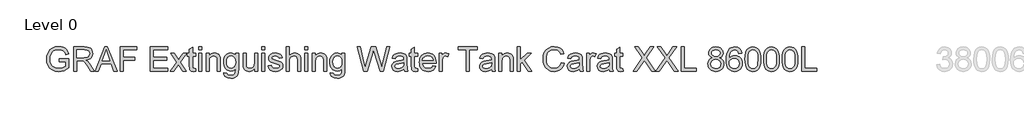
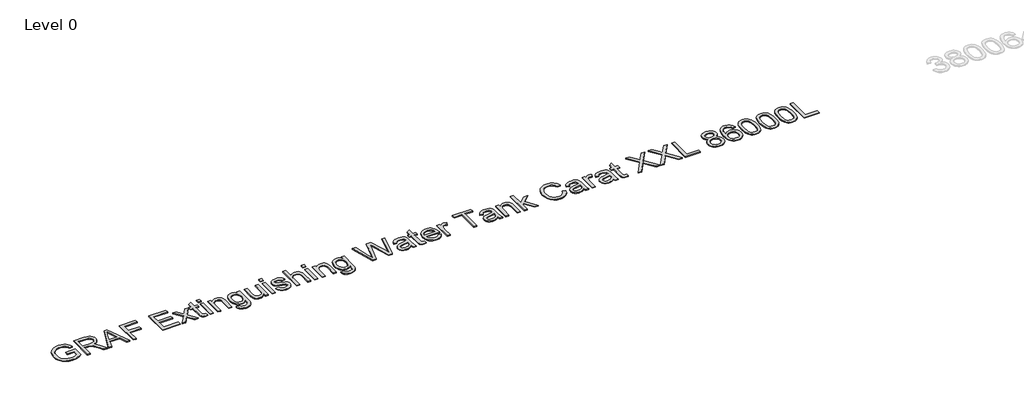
# One storey, part 29 of 37: 1 proxy.
"""IFC4 building model written with IfcOpenShell, lengths in millimetres."""

from ifc_helpers import new_model, si_unit, origin, origin_with_axes, place, context, project, spatial, polyline, outline, extrude, element, save

model = new_model("IFC4")

# Units and contexts
model_context = context("Model", 3, world=origin())
ifc_project = project(units=[si_unit("LENGTHUNIT", "METRE", prefix="MILLI")], contexts=[model_context])

# Site, building, storey
site = spatial("IfcSite", under=ifc_project)
building = spatial("IfcBuilding", under=site)
storey = spatial("IfcBuildingStorey", under=building, Name="Level 0", Elevation=0.0)

# Proxy
placement = place(None, origin())
element("IfcBuildingElementProxy", 1, Name="300mm Arial", ObjectType="300mm Arial", at=placement, inside=storey, context=model_context, shape_type="SweptSolid", body=[
    extrude(outline(polyline([(16759.0059613, -13583.2545597), (16759.0059613, -13545.5834434), (16881.4370893, -13545.5834434), (16881.4370893, -13658.2289103), (16851.6846329, -13678.9222726), (16820.9940775, -13693.7663111), (16789.4389993, -13702.7058436), (16757.0929749, -13705.6856877), (16714.8325307, -13700.949207), (16676.6371825, -13686.739765), (16644.9073605, -13663.5540022), (16622.0434945, -13631.8885595), (16608.2203285, -13593.9047435), (16603.6126065, -13551.7638609), (16608.2019344, -13509.3194757), (16621.9699181, -13469.8365406), (16644.3463404, -13436.717964), (16674.7609844, -13413.3666543), (16711.8067013, -13399.5158972), (16754.0763425, -13394.8989782), (16785.1071888, -13397.5753197), (16813.0110382, -13405.6043443), (16836.5095006, -13418.4066377), (16854.3241862, -13435.4027859), (16867.5035587, -13457.4113262), (16877.0960817, -13485.2507962), (16842.3680214, -13495.0364573), (16834.6149083, -13475.1800266), (16825.1879322, -13460.1980323), (16812.7167326, -13448.9040551), (16795.830949, -13440.1116754), (16775.6986068, -13434.4554897), (16753.4877313, -13432.5700945), (16727.4876713, -13434.6026425), (16705.2584018, -13440.7002866), (16686.8826961, -13450.0996716), (16672.4433278, -13462.0374423), (16653.0559467, -13491.0633317), (16644.2267788, -13519.50061), (16641.2837228, -13550.2187566), (16644.824587, -13586.2436009), (16655.4471796, -13615.8856927), (16672.8296039, -13638.9334997), (16696.6499631, -13655.1754898), (16724.5262213, -13664.804801), (16754.0763425, -13668.0145714), (16780.168373, -13665.5957473), (16805.6166101, -13658.3392749), (16827.7171209, -13648.3420817), (16843.765973, -13637.701095), (16843.765973, -13583.2545597), (16759.0059613, -13583.2545597)])), origin_with_axes(), (0.0, 0.0, 1.0), 10.0),
    extrude(outline(polyline([(16942.6526533, -13700.9767982), (16942.6526533, -13399.6078677), (17072.5149976, -13399.6078677), (17107.4178018, -13401.6404158), (17132.8108566, -13407.7380598), (17151.3705032, -13418.9952489), (17165.7730833, -13436.5064318), (17175.0161185, -13458.2206666), (17178.0971302, -13482.087011), (17172.9927675, -13511.7750881), (17157.6796794, -13536.3863935), (17146.0799003, -13546.4157764), (17131.6980135, -13554.4310054), (17094.5879173, -13564.4190016), (17115.9986494, -13580.532233), (17146.532855, -13619.3069952), (17196.7855355, -13700.9767982), (17153.0075781, -13700.9767982), (17113.7913574, -13638.5104354), (17085.4644438, -13597.1604991), (17065.5620278, -13577.6259652), (17047.6461747, -13570.4522663), (17025.7939842, -13569.1278911), (16980.3237696, -13569.1278911), (16980.3237696, -13700.9767982), (16942.6526533, -13700.9767982)]), holes=[polyline([(16980.3237696, -13531.4567748), (17064.6423229, -13531.4567748), (17088.8581552, -13530.1232026), (17107.6477281, -13526.1224859), (17121.7927908, -13519.1879103), (17132.0750926, -13509.0527613), (17138.3382835, -13496.7930938), (17140.4260139, -13483.4849626), (17136.4436913, -13465.109257), (17124.4967235, -13450.3020067), (17103.941317, -13440.5347397), (17074.1336783, -13437.278984), (16980.3237696, -13437.278984), (16980.3237696, -13531.4567748)])]), origin_with_axes(), (0.0, 0.0, 1.0), 10.0),
    extrude(outline(polyline([(17208.9256414, -13700.9767982), (17329.2230538, -13399.6078677), (17361.3023638, -13399.6078677), (17481.5997762, -13700.9767982), (17441.7949443, -13700.9767982), (17407.2876132, -13606.7990074), (17283.164228, -13606.7990074), (17248.7304732, -13700.9767982), (17208.9256414, -13700.9767982)]), holes=[polyline([(17296.996591, -13569.1278911), (17393.5288265, -13569.1278911), (17366.3791353, -13495.0364573), (17345.2627088, -13437.278984), (17326.500727, -13488.5617342), (17296.996591, -13569.1278911)])]), origin_with_axes(), (0.0, 0.0, 1.0), 10.0),
    extrude(outline(polyline([(17521.8460665, -13700.9767982), (17521.8460665, -13399.6078677), (17724.3283166, -13399.6078677), (17724.3283166, -13437.278984), (17559.5171828, -13437.278984), (17559.5171828, -13526.7478853), (17700.7838689, -13526.7478853), (17700.7838689, -13564.4190016), (17559.5171828, -13564.4190016), (17559.5171828, -13700.9767982), (17521.8460665, -13700.9767982)])), origin_with_axes(), (0.0, 0.0, 1.0), 10.0),
    extrude(outline(polyline([(17893.84834, -13700.9767982), (17893.84834, -13399.6078677), (18110.4572587, -13399.6078677), (18110.4572587, -13437.278984), (17931.5194563, -13437.278984), (17931.5194563, -13526.7478853), (18101.0394797, -13526.7478853), (18101.0394797, -13564.4190016), (17931.5194563, -13564.4190016), (17931.5194563, -13663.3056819), (18115.1661483, -13663.3056819), (18115.1661483, -13700.9767982), (17893.84834, -13700.9767982)])), origin_with_axes(), (0.0, 0.0, 1.0), 10.0),
    extrude(outline(polyline([(18143.4194855, -13700.9767982), (18223.9120661, -13589.7292828), (18148.1283751, -13479.6589899), (18193.4514369, -13479.6589899), (18230.0189072, -13532.6339972), (18247.0886318, -13557.6499729), (18261.877488, -13537.1957339), (18303.5217298, -13479.6589899), (18348.8447916, -13479.6589899), (18269.2351279, -13589.7292828), (18345.9017357, -13700.9767982), (18300.5786739, -13700.9767982), (18254.4462717, -13634.0958515), (18245.9849858, -13621.8821692), (18188.7425473, -13700.9767982), (18143.4194855, -13700.9767982)])), origin_with_axes(), (0.0, 0.0, 1.0), 10.0),
    extrude(outline(polyline([(18458.9150846, -13669.5596758), (18463.6239741, -13702.0804442), (18435.4442133, -13705.6856877), (18417.3628132, -13704.1221892), (18403.8799381, -13699.4316938), (18394.3517944, -13692.2028126), (18388.1345887, -13683.0241568), (18384.7132861, -13667.2604133), (18383.572852, -13640.276269), (18383.572852, -13517.3301062), (18355.3195147, -13517.3301062), (18355.3195147, -13479.6589899), (18383.572852, -13479.6589899), (18383.572852, -13425.8746422), (18421.2439683, -13403.7281461), (18421.2439683, -13479.6589899), (18458.9150846, -13479.6589899), (18458.9150846, -13517.3301062), (18421.2439683, -13517.3301062), (18421.2439683, -13639.172623), (18423.230531, -13658.5967923), (18429.668466, -13665.4761856), (18442.5075476, -13668.0145714), (18458.9150846, -13669.5596758)])), origin_with_axes(), (0.0, 0.0, 1.0), 10.0),
    extrude(outline(polyline([(18496.5862009, -13437.278984), (18496.5862009, -13399.6078677), (18534.2573172, -13399.6078677), (18534.2573172, -13437.278984), (18496.5862009, -13437.278984)])), origin_with_axes(), (0.0, 0.0, 1.0), 10.0),
    extrude(outline(polyline([(18496.5862009, -13700.9767982), (18496.5862009, -13479.6589899), (18534.2573172, -13479.6589899), (18534.2573172, -13700.9767982), (18496.5862009, -13700.9767982)])), origin_with_axes(), (0.0, 0.0, 1.0), 10.0),
    extrude(outline(polyline([(18590.7639916, -13700.9767982), (18590.7639916, -13479.6589899), (18628.435108, -13479.6589899), (18628.435108, -13510.5610775), (18641.5225099, -13494.981275), (18657.2402682, -13483.8528446), (18675.5883827, -13477.1757864), (18696.5668535, -13474.9501003), (18715.1356972, -13476.7435251), (18732.1410424, -13482.1237992), (18746.3228933, -13490.4195382), (18756.4212541, -13500.9593574), (18767.7152313, -13528.6608716), (18769.7017941, -13565.0811892), (18769.7017941, -13700.9767982), (18732.0306778, -13700.9767982), (18732.0306778, -13570.1579607), (18727.6896703, -13536.8278519), (18721.6839967, -13526.9042351), (18712.3489911, -13519.2063044), (18700.3836292, -13514.2674886), (18686.4868868, -13512.6212166), (18664.4231641, -13516.3184307), (18645.6151971, -13527.4100729), (18638.0989081, -13536.4645685), (18632.7301302, -13548.8391991), (18628.435108, -13583.5488653), (18628.435108, -13700.9767982), (18590.7639916, -13700.9767982)])), origin_with_axes(), (0.0, 0.0, 1.0), 10.0),
    extrude(outline(polyline([(18812.0817999, -13719.8123563), (18849.7529163, -13724.5212459), (18853.9099828, -13736.2934697), (18861.9665985, -13744.3868736), (18877.8039184, -13750.6776557), (18898.5340688, -13752.7745831), (18920.6437767, -13750.4017442), (18937.0881019, -13743.2832276), (18948.4924438, -13731.8788858), (18955.4822017, -13716.6485712), (18958.0573756, -13672.7234609), (18945.5217966, -13685.084296), (18931.5330838, -13693.9134639), (18916.091237, -13699.2109646), (18899.1962564, -13700.9767982), (18878.5419816, -13698.9212575), (18860.3571148, -13692.7546356), (18844.6416558, -13682.4769323), (18831.3956047, -13668.0881478), (18820.8856759, -13650.8252852), (18813.378584, -13631.9253477), (18808.8743288, -13611.3883353), (18807.3729104, -13589.214248), (18810.067646, -13558.7996041), (18818.1518529, -13530.8313754), (18831.3404224, -13507.1305779), (18849.3482461, -13489.5182274), (18871.5591215, -13478.5921321), (18897.3568464, -13474.9501003), (18914.9737955, -13477.0102395), (18930.9628667, -13483.190657), (18945.3240601, -13493.4913529), (18958.0573756, -13507.9123271), (18958.0573756, -13479.6589899), (18995.7284919, -13479.6589899), (18995.7284919, -13670.7368982), (18993.153318, -13714.8551464), (18985.4277961, -13743.908627), (18972.1196649, -13763.1764465), (18952.7966631, -13777.9377116), (18927.881855, -13787.3187024), (18897.7983048, -13790.4456994), (18862.7483477, -13786.0403125), (18835.148001, -13772.8241518), (18824.7530354, -13762.9028343), (18817.44368, -13750.7604292), (18813.2199349, -13736.3969365), (18812.0817999, -13719.8123563)]), holes=[polyline([(18845.0440267, -13586.6390741), (18849.0631375, -13621.1923905), (18861.1204699, -13644.9483703), (18879.2478552, -13658.716354), (18901.4771248, -13663.3056819), (18923.5408474, -13658.7439451), (18941.7602032, -13645.0587349), (18953.9830825, -13621.6062577), (18958.0573756, -13587.7427201), (18953.8635209, -13555.0839959), (18941.2819567, -13531.5671394), (18922.7958864, -13517.3576973), (18900.8885136, -13512.6212166), (18879.3766139, -13517.2841209), (18861.3411991, -13531.2728338), (18849.1183198, -13554.4402024), (18845.0440267, -13586.6390741)])]), origin_with_axes(), (0.0, 0.0, 1.0), 10.0),
    extrude(outline(polyline([(19193.5018525, -13700.9767982), (19193.5018525, -13662.9377999), (19179.8718246, -13681.6400008), (19163.9977165, -13694.9987158), (19145.8795283, -13703.0139447), (19125.5172598, -13705.6856877), (19107.1691453, -13703.8094895), (19090.0902237, -13698.180895), (19075.76122, -13689.7196091), (19065.6628592, -13679.3453369), (19054.4424584, -13651.6070344), (19052.2351664, -13616.5846685), (19052.2351664, -13479.6589899), (19089.9062827, -13479.6589899), (19089.9062827, -13598.8527563), (19092.1871511, -13637.2596366), (19097.6777899, -13650.0711271), (19107.0863719, -13659.8108029), (19119.7874978, -13665.9636293), (19135.1557681, -13668.0145714), (19151.4069552, -13665.917644), (19166.6096787, -13659.6268619), (19179.1452577, -13649.7216392), (19187.3950114, -13636.78139), (19191.9751423, -13619.0586749), (19193.5018525, -13594.8060544), (19193.5018525, -13479.6589899), (19231.1729689, -13479.6589899), (19231.1729689, -13700.9767982), (19193.5018525, -13700.9767982)])), origin_with_axes(), (0.0, 0.0, 1.0), 10.0),
    extrude(outline(polyline([(19282.9707538, -13437.278984), (19282.9707538, -13399.6078677), (19320.6418701, -13399.6078677), (19320.6418701, -13437.278984), (19282.9707538, -13437.278984)])), origin_with_axes(), (0.0, 0.0, 1.0), 10.0),
    extrude(outline(polyline([(19282.9707538, -13700.9767982), (19282.9707538, -13479.6589899), (19320.6418701, -13479.6589899), (19320.6418701, -13700.9767982), (19282.9707538, -13700.9767982)])), origin_with_axes(), (0.0, 0.0, 1.0), 10.0),
    extrude(outline(polyline([(19363.0218759, -13635.0523446), (19400.6929922, -13630.3434551), (19406.6342865, -13646.4566865), (19418.1305988, -13658.3024867), (19435.2555057, -13665.5865502), (19458.0825835, -13668.0145714), (19480.6337498, -13665.7888853), (19496.4894638, -13659.1118271), (19505.8704547, -13649.4365307), (19508.9974516, -13638.2161298), (19505.8520606, -13628.6144097), (19496.4158874, -13621.293558), (19457.6411251, -13610.5514038), (19400.9137214, -13592.1205158), (19386.5571266, -13582.8590866), (19376.1552632, -13570.5994191), (19369.8368899, -13556.1232626), (19367.7307655, -13540.2123663), (19369.4230226, -13525.6166481), (19374.4997942, -13512.1429701), (19382.5012276, -13500.324761), (19392.9674703, -13490.6954497), (19416.9165882, -13479.5486253), (19449.326992, -13474.9501003), (19473.846327, -13476.7987074), (19495.1650886, -13482.3445284), (19512.3083896, -13491.0449376), (19524.3013426, -13502.357309), (19532.2475937, -13517.118574), (19537.2507888, -13536.1656643), (19499.5796725, -13540.8745539), (19494.8247977, -13529.0195566), (19485.4162157, -13520.0892211), (19471.261956, -13514.4882178), (19452.270048, -13512.6212166), (19430.6385866, -13514.4054443), (19416.2176124, -13519.7581274), (19408.1058144, -13527.4836493), (19405.4018818, -13536.3863935), (19409.8900421, -13547.349277), (19423.9431343, -13555.6634101), (19456.3903263, -13563.6832376), (19511.6829902, -13581.4151497), (19526.2879054, -13589.8948297), (19537.3611534, -13601.5015067), (19544.3417143, -13616.2719688), (19546.6685679, -13634.2430043), (19543.9370441, -13652.821045), (19535.7424727, -13670.2954398), (19522.3975533, -13685.2958281), (19504.2149857, -13696.4518496), (19482.2524306, -13703.3772282), (19457.5675487, -13705.6856877), (19419.5837327, -13701.2343156), (19391.8638243, -13687.8801992), (19373.35936, -13665.7704912), (19363.0218759, -13635.0523446)])), origin_with_axes(), (0.0, 0.0, 1.0), 10.0),
    extrude(outline(polyline([(19589.0485738, -13700.9767982), (19589.0485738, -13399.6078677), (19626.7196901, -13399.6078677), (19626.7196901, -13510.4139247), (19640.5566516, -13494.8985015), (19656.0950674, -13483.8160564), (19673.3349374, -13477.1665894), (19692.2762616, -13474.9501003), (19715.029763, -13477.3689245), (19734.5826911, -13484.6253968), (19749.9785526, -13496.1493003), (19760.2608543, -13511.3704179), (19766.0549957, -13532.2845093), (19767.9863762, -13560.8873344), (19767.9863762, -13700.9767982), (19730.3152599, -13700.9767982), (19730.3152599, -13564.7868836), (19727.3170216, -13541.2056477), (19718.3223069, -13525.0556281), (19703.8277563, -13515.7298195), (19684.3300105, -13512.6212166), (19668.4099172, -13514.718144), (19653.4647111, -13521.0089261), (19641.085482, -13530.8865577), (19632.8633194, -13543.7440334), (19628.2555974, -13560.8321521), (19626.7196901, -13583.4017125), (19626.7196901, -13700.9767982), (19589.0485738, -13700.9767982)])), origin_with_axes(), (0.0, 0.0, 1.0), 10.0),
    extrude(outline(polyline([(19819.7841611, -13437.278984), (19819.7841611, -13399.6078677), (19857.4552774, -13399.6078677), (19857.4552774, -13437.278984), (19819.7841611, -13437.278984)])), origin_with_axes(), (0.0, 0.0, 1.0), 10.0),
    extrude(outline(polyline([(19819.7841611, -13700.9767982), (19819.7841611, -13479.6589899), (19857.4552774, -13479.6589899), (19857.4552774, -13700.9767982), (19819.7841611, -13700.9767982)])), origin_with_axes(), (0.0, 0.0, 1.0), 10.0),
    extrude(outline(polyline([(19913.9619519, -13700.9767982), (19913.9619519, -13479.6589899), (19951.6330682, -13479.6589899), (19951.6330682, -13510.5610775), (19964.7204702, -13494.981275), (19980.4382284, -13483.8528446), (19998.7863429, -13477.1757864), (20019.7648137, -13474.9501003), (20038.3336574, -13476.7435251), (20055.3390026, -13482.1237992), (20069.5208536, -13490.4195382), (20079.6192143, -13500.9593574), (20090.9131916, -13528.6608716), (20092.8997544, -13565.0811892), (20092.8997544, -13700.9767982), (20055.228638, -13700.9767982), (20055.228638, -13570.1579607), (20050.8876305, -13536.8278519), (20044.8819569, -13526.9042351), (20035.5469513, -13519.2063044), (20023.5815894, -13514.2674886), (20009.684847, -13512.6212166), (19987.6211244, -13516.3184307), (19968.8131574, -13527.4100729), (19961.2968684, -13536.4645685), (19955.9280905, -13548.8391991), (19951.6330682, -13583.5488653), (19951.6330682, -13700.9767982), (19913.9619519, -13700.9767982)])), origin_with_axes(), (0.0, 0.0, 1.0), 10.0),
    extrude(outline(polyline([(20135.2797602, -13719.8123563), (20172.9508765, -13724.5212459), (20177.1079431, -13736.2934697), (20185.1645587, -13744.3868736), (20201.0018786, -13750.6776557), (20221.7320291, -13752.7745831), (20243.841737, -13750.4017442), (20260.2860622, -13743.2832276), (20271.690404, -13731.8788858), (20278.6801619, -13716.6485712), (20281.2553359, -13672.7234609), (20268.7197569, -13685.084296), (20254.731044, -13693.9134639), (20239.2891973, -13699.2109646), (20222.3942167, -13700.9767982), (20201.7399419, -13698.9212575), (20183.555075, -13692.7546356), (20167.839616, -13682.4769323), (20154.5935649, -13668.0881478), (20144.0836362, -13650.8252852), (20136.5765442, -13631.9253477), (20132.0722891, -13611.3883353), (20130.5708707, -13589.214248), (20133.2656063, -13558.7996041), (20141.3498131, -13530.8313754), (20154.5383826, -13507.1305779), (20172.5462063, -13489.5182274), (20194.7570818, -13478.5921321), (20220.5548067, -13474.9501003), (20238.1717557, -13477.0102395), (20254.1608269, -13483.190657), (20268.5220203, -13493.4913529), (20281.2553359, -13507.9123271), (20281.2553359, -13479.6589899), (20318.9264522, -13479.6589899), (20318.9264522, -13670.7368982), (20316.3512782, -13714.8551464), (20308.6257563, -13743.908627), (20295.3176252, -13763.1764465), (20275.9946234, -13777.9377116), (20251.0798152, -13787.3187024), (20220.9962651, -13790.4456994), (20185.946308, -13786.0403125), (20158.3459613, -13772.8241518), (20147.9509957, -13762.9028343), (20140.6416403, -13750.7604292), (20136.4178951, -13736.3969365), (20135.2797602, -13719.8123563)]), holes=[polyline([(20168.241987, -13586.6390741), (20172.2610978, -13621.1923905), (20184.3184302, -13644.9483703), (20202.4458155, -13658.716354), (20224.675085, -13663.3056819), (20246.7388077, -13658.7439451), (20264.9581635, -13645.0587349), (20277.1810428, -13621.6062577), (20281.2553359, -13587.7427201), (20277.0614811, -13555.0839959), (20264.4799169, -13531.5671394), (20245.9938466, -13517.3576973), (20224.0864738, -13512.6212166), (20202.5745742, -13517.2841209), (20184.5391594, -13531.2728338), (20172.3162801, -13554.4402024), (20168.241987, -13586.6390741)])]), origin_with_axes(), (0.0, 0.0, 1.0), 10.0),
    extrude(outline(polyline([(20551.7957551, -13700.9767982), (20469.6109174, -13399.6078677), (20508.4592561, -13399.6078677), (20556.1367627, -13597.6755339), (20570.8520425, -13658.8175215), (20586.5973919, -13604.7388682), (20646.3414279, -13399.6078677), (20702.3330676, -13399.6078677), (20745.743143, -13548.3057702), (20764.3395779, -13603.4880695), (20778.0431822, -13658.8175215), (20792.3170036, -13599.4413675), (20840.4359686, -13399.6078677), (20879.2843072, -13399.6078677), (20797.0258931, -13700.9767982), (20756.7796029, -13700.9767982), (20684.527579, -13468.4753772), (20674.4476123, -13436.0281853), (20663.1168469, -13475.0972531), (20597.2659697, -13700.9767982), (20551.7957551, -13700.9767982)])), origin_with_axes(), (0.0, 0.0, 1.0), 10.0),
    extrude(outline(polyline([(21053.5132202, -13672.7234609), (21035.5145935, -13688.1561106), (21016.982538, -13698.2544714), (20997.4939893, -13703.8278836), (20976.6258832, -13705.6856877), (20945.1443814, -13701.2159215), (20921.9218305, -13687.8066228), (20907.6020238, -13667.4443543), (20902.8287549, -13642.115679), (20904.6313767, -13626.4990883), (20910.039242, -13612.3172373), (20918.3809663, -13600.1771315), (20928.9851648, -13590.685776), (20955.3623038, -13578.324941), (20987.9566486, -13572.6595583), (21026.4738935, -13566.6998699), (21053.292491, -13559.710112), (21053.5132202, -13551.3224025), (21050.9196521, -13534.5101954), (21043.1389479, -13523.5105237), (21025.7381295, -13515.3435434), (21001.494706, -13512.6212166), (20979.0539043, -13514.4330355), (20963.3821313, -13519.868492), (20952.6951594, -13529.9208675), (20945.2087608, -13545.5834434), (20907.5376445, -13540.8745539), (20914.0767469, -13520.2731621), (20923.8348169, -13504.0863544), (20937.7223622, -13491.7071252), (20956.6498908, -13482.5284694), (20979.7988654, -13476.8446926), (21006.3507484, -13474.9501003), (21031.8173795, -13476.6239634), (21052.004904, -13481.6455527), (21067.2260215, -13489.1963306), (21077.7934318, -13498.4577598), (21084.8015838, -13509.9080869), (21089.3449265, -13524.0255585), (21091.1843365, -13556.9877853), (21091.1843365, -13603.8559515), (21093.0973228, -13669.3021584), (21100.6021155, -13700.9767982), (21062.9309992, -13700.9767982), (21053.5132202, -13672.7234609)]), holes=[polyline([(21053.5132202, -13597.3812283), (20992.7391146, -13608.932723), (20960.3287108, -13615.0395641), (20945.6502192, -13624.972378), (20940.4998712, -13639.4669286), (20943.3049715, -13650.6689353), (20951.7202721, -13659.8475911), (20965.5618322, -13665.9728263), (20984.6457107, -13668.0145714), (21004.8792204, -13665.7612942), (21022.7582854, -13659.0014625), (21037.252836, -13649.0410575), (21047.3328026, -13637.1860602), (21051.8025689, -13624.972378), (21053.292491, -13608.0498062), (21053.5132202, -13597.3812283)])]), origin_with_axes(), (0.0, 0.0, 1.0), 10.0),
    extrude(outline(polyline([(21223.0332435, -13669.5596758), (21227.7421331, -13702.0804442), (21199.5623722, -13705.6856877), (21181.4809722, -13704.1221892), (21167.9980971, -13699.4316938), (21158.4699534, -13692.2028126), (21152.2527477, -13683.0241568), (21148.8314451, -13667.2604133), (21147.6910109, -13640.276269), (21147.6910109, -13517.3301062), (21119.4376737, -13517.3301062), (21119.4376737, -13479.6589899), (21147.6910109, -13479.6589899), (21147.6910109, -13425.8746422), (21185.3621272, -13403.7281461), (21185.3621272, -13479.6589899), (21223.0332435, -13479.6589899), (21223.0332435, -13517.3301062), (21185.3621272, -13517.3301062), (21185.3621272, -13639.172623), (21187.34869, -13658.5967923), (21193.7866249, -13665.4761856), (21206.6257066, -13668.0145714), (21223.0332435, -13669.5596758)])), origin_with_axes(), (0.0, 0.0, 1.0), 10.0),
    extrude(outline(polyline([(21415.6562562, -13635.0523446), (21452.5916085, -13639.7612342), (21439.2834774, -13667.5915071), (21418.0474892, -13688.3952339), (21389.3618906, -13701.3630743), (21353.7049282, -13705.6856877), (21330.330626, -13703.8209859), (21309.5039065, -13698.2268803), (21291.2247699, -13688.9033709), (21275.493216, -13675.8504579), (21262.8426739, -13659.4314246), (21253.8065724, -13640.0095545), (21248.3849115, -13617.5848477), (21246.5776912, -13592.157304), (21248.4033056, -13565.8675369), (21253.8801488, -13542.6955698), (21263.0082208, -13522.6414025), (21275.7875216, -13505.7050351), (21291.4776887, -13492.2497512), (21309.3383596, -13482.638834), (21329.3695342, -13476.8722838), (21351.5712127, -13474.9501003), (21373.0578204, -13476.8676852), (21392.4888876, -13482.6204399), (21409.8644141, -13492.2083644), (21425.1843999, -13505.6314587), (21437.6900885, -13522.5310379), (21446.6227232, -13542.548417), (21451.982304, -13565.6835959), (21453.7688309, -13591.9365748), (21453.5481017, -13602.0901179), (21284.2488075, -13602.0901179), (21290.7695159, -13630.2882728), (21305.9170571, -13651.0184232), (21327.7784446, -13663.7655344), (21354.4406922, -13668.0145714), (21374.490261, -13666.0464027), (21391.3760445, -13660.1418967), (21405.098043, -13649.9331713), (21415.6562562, -13635.0523446)]), holes=[polyline([(21284.2488075, -13564.4190016), (21416.0977146, -13564.4190016), (21411.002549, -13544.5165856), (21401.0145528, -13530.2795524), (21379.0519977, -13517.0358006), (21351.4240599, -13512.6212166), (21326.0310051, -13516.1436868), (21305.0341403, -13526.7110971), (21290.4384221, -13543.1830134), (21284.2488075, -13564.4190016)])]), origin_with_axes(), (0.0, 0.0, 1.0), 10.0),
    extrude(outline(polyline([(21491.4399472, -13700.9767982), (21491.4399472, -13479.6589899), (21524.402174, -13479.6589899), (21524.402174, -13512.4004875), (21536.579068, -13493.4177765), (21547.7994689, -13482.2341638), (21559.0566579, -13476.7711162), (21571.3439166, -13474.9501003), (21590.1058983, -13477.8563681), (21609.1621857, -13486.5751714), (21596.5806214, -13520.3467385), (21583.3368696, -13514.5525971), (21570.0931178, -13512.6212166), (21558.8451258, -13514.4790207), (21548.7927503, -13520.052433), (21540.6717552, -13528.918389), (21535.2179046, -13540.6538247), (21530.6377738, -13561.6966748), (21529.1110635, -13584.6525113), (21529.1110635, -13700.9767982), (21491.4399472, -13700.9767982)])), origin_with_axes(), (0.0, 0.0, 1.0), 10.0),
    extrude(outline(polyline([(21830.479994, -13700.9767982), (21830.479994, -13437.278984), (21731.5933137, -13437.278984), (21731.5933137, -13399.6078677), (21967.0377906, -13399.6078677), (21967.0377906, -13437.278984), (21868.1511103, -13437.278984), (21868.1511103, -13700.9767982), (21830.479994, -13700.9767982)])), origin_with_axes(), (0.0, 0.0, 1.0), 10.0),
    extrude(outline(polyline([(22145.975593, -13672.7234609), (22127.9769664, -13688.1561106), (22109.4449109, -13698.2544714), (22089.9563622, -13703.8278836), (22069.088256, -13705.6856877), (22037.6067543, -13701.2159215), (22014.3842034, -13687.8066228), (22000.0643967, -13667.4443543), (21995.2911278, -13642.115679), (21997.0937496, -13626.4990883), (22002.5016149, -13612.3172373), (22010.8433392, -13600.1771315), (22021.4475377, -13590.685776), (22047.8246767, -13578.324941), (22080.4190215, -13572.6595583), (22118.9362664, -13566.6998699), (22145.7548638, -13559.710112), (22145.975593, -13551.3224025), (22143.382025, -13534.5101954), (22135.6013208, -13523.5105237), (22118.2005024, -13515.3435434), (22093.9570789, -13512.6212166), (22071.5162772, -13514.4330355), (22055.8445042, -13519.868492), (22045.1575323, -13529.9208675), (22037.6711337, -13545.5834434), (22000.0000174, -13540.8745539), (22006.5391198, -13520.2731621), (22016.2971897, -13504.0863544), (22030.1847351, -13491.7071252), (22049.1122637, -13482.5284694), (22072.2612383, -13476.8446926), (22098.8131213, -13474.9501003), (22124.2797524, -13476.6239634), (22144.4672769, -13481.6455527), (22159.6883944, -13489.1963306), (22170.2558047, -13498.4577598), (22177.2639567, -13509.9080869), (22181.8072994, -13524.0255585), (22183.6467093, -13556.9877853), (22183.6467093, -13603.8559515), (22185.5596957, -13669.3021584), (22193.0644884, -13700.9767982), (22155.3933721, -13700.9767982), (22145.975593, -13672.7234609)]), holes=[polyline([(22145.975593, -13597.3812283), (22085.2014874, -13608.932723), (22052.7910837, -13615.0395641), (22038.1125921, -13624.972378), (22032.9622441, -13639.4669286), (22035.7673443, -13650.6689353), (22044.182645, -13659.8475911), (22058.024205, -13665.9728263), (22077.1080835, -13668.0145714), (22097.3415933, -13665.7612942), (22115.2206582, -13659.0014625), (22129.7152089, -13649.0410575), (22139.7951755, -13637.1860602), (22144.2649418, -13624.972378), (22145.7548638, -13608.0498062), (22145.975593, -13597.3812283)])]), origin_with_axes(), (0.0, 0.0, 1.0), 10.0),
    extrude(outline(polyline([(22235.4444943, -13700.9767982), (22235.4444943, -13479.6589899), (22273.1156106, -13479.6589899), (22273.1156106, -13510.5610775), (22286.2030125, -13494.981275), (22301.9207708, -13483.8528446), (22320.2688853, -13477.1757864), (22341.2473561, -13474.9501003), (22359.8161998, -13476.7435251), (22376.821545, -13482.1237992), (22391.0033959, -13490.4195382), (22401.1017567, -13500.9593574), (22412.3957339, -13528.6608716), (22414.3822967, -13565.0811892), (22414.3822967, -13700.9767982), (22376.7111804, -13700.9767982), (22376.7111804, -13570.1579607), (22372.3701729, -13536.8278519), (22366.3644993, -13526.9042351), (22357.0294937, -13519.2063044), (22345.0641318, -13514.2674886), (22331.1673894, -13512.6212166), (22309.1036667, -13516.3184307), (22290.2956997, -13527.4100729), (22282.7794107, -13536.4645685), (22277.4106329, -13548.8391991), (22273.1156106, -13583.5488653), (22273.1156106, -13700.9767982), (22235.4444943, -13700.9767982)])), origin_with_axes(), (0.0, 0.0, 1.0), 10.0),
    extrude(outline(polyline([(22466.1800816, -13700.9767982), (22466.1800816, -13399.6078677), (22503.8511979, -13399.6078677), (22503.8511979, -13561.549522), (22588.316904, -13479.6589899), (22640.4089946, -13479.6589899), (22554.9132189, -13562.5795916), (22645.1178841, -13700.9767982), (22601.1191975, -13700.9767982), (22527.9106804, -13588.7727896), (22503.8511979, -13612.0965081), (22503.8511979, -13700.9767982), (22466.1800816, -13700.9767982)])), origin_with_axes(), (0.0, 0.0, 1.0), 10.0),
    extrude(outline(polyline([(23012.4112681, -13593.8495612), (23050.0823844, -13603.5616459), (23042.6281755, -13626.9888312), (23032.6999601, -13647.4591649), (23020.2977383, -13664.9726472), (23005.4215102, -13679.5292779), (22988.4069679, -13690.9727072), (22969.5898038, -13699.1465853), (22948.970018, -13704.0509121), (22926.5476104, -13705.6856877), (22882.8524264, -13700.7376749), (22848.1519572, -13685.8936364), (22821.554089, -13661.668607), (22802.1667078, -13628.5776215), (22790.3301046, -13589.6741005), (22786.3845702, -13548.0114646), (22790.8451394, -13504.0679603), (22804.226847, -13466.1209325), (22825.8307172, -13435.3751947), (22854.9577741, -13413.0355606), (22889.5018935, -13399.4331238), (22927.3569508, -13394.8989782), (22968.6609018, -13400.766696), (22986.629638, -13408.1013433), (23002.809548, -13418.3698495), (23016.9339174, -13431.3009016), (23028.7360316, -13446.6231867), (23045.3734948, -13484.4414558), (23007.7023785, -13493.4177765), (22994.6425677, -13465.9461885), (22976.8002909, -13447.1014333), (22953.954819, -13436.2029292), (22925.8854228, -13432.5700945), (22893.5302013, -13436.5984023), (22866.9507272, -13448.6833259), (22846.7815968, -13467.5556722), (22833.6574066, -13491.9462485), (22826.4561166, -13519.5190041), (22824.0556865, -13547.9378882), (22826.897575, -13582.7395249), (22835.4232402, -13612.8322721), (22849.954579, -13637.0664986), (22870.8134881, -13654.292573), (22895.8202668, -13664.5840718), (22922.7952141, -13668.0145714), (22954.2399276, -13663.3424701), (22980.4423227, -13649.3261661), (23000.225177, -13626.1128122), (23012.4112681, -13593.8495612)])), origin_with_axes(), (0.0, 0.0, 1.0), 10.0),
    extrude(outline(polyline([(23238.4379659, -13672.7234609), (23220.4393393, -13688.1561106), (23201.9072838, -13698.2544714), (23182.4187351, -13703.8278836), (23161.5506289, -13705.6856877), (23130.0691272, -13701.2159215), (23106.8465762, -13687.8066228), (23092.5267696, -13667.4443543), (23087.7535007, -13642.115679), (23089.5561225, -13626.4990883), (23094.9639878, -13612.3172373), (23103.305712, -13600.1771315), (23113.9099105, -13590.685776), (23140.2870496, -13578.324941), (23172.8813944, -13572.6595583), (23211.3986393, -13566.6998699), (23238.2172367, -13559.710112), (23238.4379659, -13551.3224025), (23235.8443978, -13534.5101954), (23228.0636936, -13523.5105237), (23210.6628753, -13515.3435434), (23186.4194518, -13512.6212166), (23163.9786501, -13514.4330355), (23148.3068771, -13519.868492), (23137.6199051, -13529.9208675), (23130.1335065, -13545.5834434), (23092.4623902, -13540.8745539), (23099.0014927, -13520.2731621), (23108.7595626, -13504.0863544), (23122.6471079, -13491.7071252), (23141.5746366, -13482.5284694), (23164.7236111, -13476.8446926), (23191.2754941, -13474.9501003), (23216.7421252, -13476.6239634), (23236.9296497, -13481.6455527), (23252.1507673, -13489.1963306), (23262.7181776, -13498.4577598), (23269.7263296, -13509.9080869), (23274.2696722, -13524.0255585), (23276.1090822, -13556.9877853), (23276.1090822, -13603.8559515), (23278.0220686, -13669.3021584), (23285.5268613, -13700.9767982), (23247.855745, -13700.9767982), (23238.4379659, -13672.7234609)]), holes=[polyline([(23238.4379659, -13597.3812283), (23177.6638603, -13608.932723), (23145.2534565, -13615.0395641), (23130.5749649, -13624.972378), (23125.424617, -13639.4669286), (23128.2297172, -13650.6689353), (23136.6450178, -13659.8475911), (23150.4865779, -13665.9728263), (23169.5704564, -13668.0145714), (23189.8039662, -13665.7612942), (23207.6830311, -13659.0014625), (23222.1775817, -13649.0410575), (23232.2575484, -13637.1860602), (23236.7273146, -13624.972378), (23238.2172367, -13608.0498062), (23238.4379659, -13597.3812283)])]), origin_with_axes(), (0.0, 0.0, 1.0), 10.0),
    extrude(outline(polyline([(23327.9068671, -13700.9767982), (23327.9068671, -13479.6589899), (23360.8690939, -13479.6589899), (23360.8690939, -13512.4004875), (23373.0459879, -13493.4177765), (23384.2663888, -13482.2341638), (23395.5235779, -13476.7711162), (23407.8108365, -13474.9501003), (23426.5728182, -13477.8563681), (23445.6291056, -13486.5751714), (23433.0475414, -13520.3467385), (23419.8037895, -13514.5525971), (23406.5600377, -13512.6212166), (23395.3120457, -13514.4790207), (23385.2596702, -13520.052433), (23377.1386751, -13528.918389), (23371.6848246, -13540.6538247), (23367.1046937, -13561.6966748), (23365.5779834, -13584.6525113), (23365.5779834, -13700.9767982), (23327.9068671, -13700.9767982)])), origin_with_axes(), (0.0, 0.0, 1.0), 10.0),
    extrude(outline(polyline([(23610.4402394, -13672.7234609), (23592.4416128, -13688.1561106), (23573.9095573, -13698.2544714), (23554.4210086, -13703.8278836), (23533.5529024, -13705.6856877), (23502.0714007, -13701.2159215), (23478.8488498, -13687.8066228), (23464.5290431, -13667.4443543), (23459.7557742, -13642.115679), (23461.558396, -13626.4990883), (23466.9662613, -13612.3172373), (23475.3079856, -13600.1771315), (23485.9121841, -13590.685776), (23512.2893231, -13578.324941), (23544.8836679, -13572.6595583), (23583.4009128, -13566.6998699), (23610.2195102, -13559.710112), (23610.4402394, -13551.3224025), (23607.8466714, -13534.5101954), (23600.0659672, -13523.5105237), (23582.6651488, -13515.3435434), (23558.4217253, -13512.6212166), (23535.9809236, -13514.4330355), (23520.3091506, -13519.868492), (23509.6221787, -13529.9208675), (23502.1357801, -13545.5834434), (23464.4646638, -13540.8745539), (23471.0037662, -13520.2731621), (23480.7618361, -13504.0863544), (23494.6493815, -13491.7071252), (23513.5769101, -13482.5284694), (23536.7258847, -13476.8446926), (23563.2777677, -13474.9501003), (23588.7443988, -13476.6239634), (23608.9319233, -13481.6455527), (23624.1530408, -13489.1963306), (23634.7204511, -13498.4577598), (23641.7286031, -13509.9080869), (23646.2719458, -13524.0255585), (23648.1113557, -13556.9877853), (23648.1113557, -13603.8559515), (23650.0243421, -13669.3021584), (23657.5291348, -13700.9767982), (23619.8580185, -13700.9767982), (23610.4402394, -13672.7234609)]), holes=[polyline([(23610.4402394, -13597.3812283), (23549.6661338, -13608.932723), (23517.2557301, -13615.0395641), (23502.5772385, -13624.972378), (23497.4268905, -13639.4669286), (23500.2319907, -13650.6689353), (23508.6472914, -13659.8475911), (23522.4888514, -13665.9728263), (23541.5727299, -13668.0145714), (23561.8062397, -13665.7612942), (23579.6853046, -13659.0014625), (23594.1798552, -13649.0410575), (23604.2598219, -13637.1860602), (23608.7295882, -13624.972378), (23610.2195102, -13608.0498062), (23610.4402394, -13597.3812283)])]), origin_with_axes(), (0.0, 0.0, 1.0), 10.0),
    extrude(outline(polyline([(23779.9602628, -13669.5596758), (23784.6691524, -13702.0804442), (23756.4893915, -13705.6856877), (23738.4079915, -13704.1221892), (23724.9251163, -13699.4316938), (23715.3969727, -13692.2028126), (23709.1797669, -13683.0241568), (23705.7584644, -13667.2604133), (23704.6180302, -13640.276269), (23704.6180302, -13517.3301062), (23676.364693, -13517.3301062), (23676.364693, -13479.6589899), (23704.6180302, -13479.6589899), (23704.6180302, -13425.8746422), (23742.2891465, -13403.7281461), (23742.2891465, -13479.6589899), (23779.9602628, -13479.6589899), (23779.9602628, -13517.3301062), (23742.2891465, -13517.3301062), (23742.2891465, -13639.172623), (23744.2757093, -13658.5967923), (23750.7136442, -13665.4761856), (23763.5527258, -13668.0145714), (23779.9602628, -13669.5596758)])), origin_with_axes(), (0.0, 0.0, 1.0), 10.0),
    extrude(outline(polyline([(23907.1002803, -13700.9767982), (24023.2774144, -13536.7542755), (23925.9358385, -13399.6078677), (23971.1117475, -13399.6078677), (24025.9261648, -13476.7895103), (24044.3938409, -13506.8822575), (24066.0253023, -13476.2744755), (24120.2511084, -13399.6078677), (24166.089205, -13399.6078677), (24068.747629, -13537.1957339), (24184.9247631, -13700.9767982), (24139.7488541, -13700.9767982), (24062.3464823, -13591.789422), (24046.2332509, -13569.1278911), (24028.5013388, -13593.996714), (23952.9383769, -13700.9767982), (23907.1002803, -13700.9767982)])), origin_with_axes(), (0.0, 0.0, 1.0), 10.0),
    extrude(outline(polyline([(24189.6336526, -13700.9767982), (24305.8107867, -13536.7542755), (24208.4692108, -13399.6078677), (24253.6451198, -13399.6078677), (24308.4595371, -13476.7895103), (24326.9272132, -13506.8822575), (24348.5586746, -13476.2744755), (24402.7844806, -13399.6078677), (24448.6225772, -13399.6078677), (24351.2810013, -13537.1957339), (24467.4581354, -13700.9767982), (24422.2822264, -13700.9767982), (24344.8798546, -13591.789422), (24328.7666232, -13569.1278911), (24311.0347111, -13593.996714), (24235.4717492, -13700.9767982), (24189.6336526, -13700.9767982)])), origin_with_axes(), (0.0, 0.0, 1.0), 10.0),
    extrude(outline(polyline([(24505.1292517, -13700.9767982), (24505.1292517, -13399.6078677), (24542.800368, -13399.6078677), (24542.800368, -13663.3056819), (24693.4848332, -13663.3056819), (24693.4848332, -13700.9767982), (24505.1292517, -13700.9767982)])), origin_with_axes(), (0.0, 0.0, 1.0), 10.0),
    extrude(outline(polyline([(24894.3484026, -13534.988442), (24874.1792722, -13525.0556281), (24860.0250125, -13511.5911471), (24851.6648941, -13494.8709104), (24848.878188, -13475.1708295), (24850.3957012, -13459.8071577), (24854.9482409, -13445.7218758), (24862.5358071, -13432.9149839), (24873.1583997, -13421.3864818), (24886.3055825, -13411.8583382), (24901.4669192, -13405.0525213), (24937.8320544, -13399.6078677), (24974.4179189, -13405.18128), (24989.7448025, -13412.1480452), (25003.0943204, -13421.9015166), (25013.910051, -13433.6553464), (25021.6355729, -13446.6231867), (25026.2708861, -13460.8050376), (25027.8159905, -13476.2008991), (25025.0660725, -13495.2663835), (25016.8163188, -13511.7015117), (25002.9747587, -13525.0832192), (24983.4494218, -13534.988442), (25006.6351846, -13546.9354097), (25023.5117711, -13564.5293662), (25033.8032699, -13586.9241826), (25037.2337695, -13613.2737305), (25035.5323153, -13632.0633034), (25030.4279526, -13649.2893779), (25021.9206815, -13664.9519538), (25010.0105019, -13679.0510313), (24995.3228132, -13690.7036935), (24978.4830149, -13699.0270236), (24959.4911069, -13704.0210217), (24938.3470892, -13705.6856877), (24917.2030716, -13704.0141239), (24898.2111636, -13698.9994325), (24881.3713652, -13690.6416134), (24866.6836766, -13678.9406667), (24854.773497, -13664.7427209), (24846.2662258, -13648.8939047), (24841.1618632, -13631.3942181), (24839.4604089, -13612.2436609), (24843.0288643, -13584.8732405), (24853.7342303, -13562.3588624), (24871.0246841, -13545.4730788), (24894.3484026, -13534.988442)]), holes=[polyline([(24886.5493043, -13476.2744755), (24889.8878334, -13492.7188007), (24899.9034207, -13505.8521879), (24916.3017607, -13514.4606266), (24938.7885476, -13517.3301062), (24960.7511027, -13514.4790207), (24976.9011223, -13505.9257643), (24986.8339362, -13493.2338355), (24990.1448741, -13477.9667327), (24986.7235716, -13462.1202158), (24976.4596639, -13449.0144197), (24960.0889151, -13440.2128429), (24938.3470892, -13437.278984), (24916.4673076, -13440.1484636), (24900.1241499, -13448.7569023), (24889.9430157, -13461.3752547), (24886.5493043, -13476.2744755)]), polyline([(24877.1315252, -13610.9192858), (24883.4223073, -13639.2829876), (24892.1319136, -13651.4506846), (24905.6791681, -13660.5097787), (24921.902764, -13666.1383732), (24938.6413948, -13668.0145714), (24964.2827699, -13664.069037), (24983.5229982, -13652.2324338), (24995.5527395, -13634.3073836), (24999.5626532, -13612.0965081), (24995.4239808, -13589.5085536), (24983.0079634, -13571.1880303), (24963.3262767, -13559.0479244), (24937.390596, -13555.0012225), (24912.1079059, -13558.9927421), (24893.0608156, -13570.9673011), (24881.1138478, -13588.9383365), (24877.1315252, -13610.9192858)])]), origin_with_axes(), (0.0, 0.0, 1.0), 10.0),
    extrude(outline(polyline([(25263.2604674, -13479.6589899), (25225.5893511, -13484.3678794), (25219.5192981, -13465.6978682), (25211.3155296, -13452.950757), (25194.227411, -13441.1969273), (25173.5708369, -13437.278984), (25156.059654, -13439.5598524), (25139.5785406, -13446.4024575), (25125.4242808, -13460.8142347), (25113.8635891, -13480.6522713), (25106.0552938, -13508.7124704), (25103.1582231, -13547.7907354), (25118.268976, -13530.1599908), (25136.3779672, -13517.7347764), (25156.4735212, -13510.3679394), (25177.5439625, -13507.9123271), (25195.6437567, -13509.5907887), (25212.3455992, -13514.6261735), (25227.6494902, -13523.0184815), (25241.5554297, -13534.7677128), (25253.1115228, -13549.1748914), (25261.3658751, -13565.5410417), (25266.3184865, -13583.8661635), (25267.9693569, -13604.150257), (25264.860754, -13631.1252043), (25255.5349455, -13656.131983), (25240.7644834, -13677.34038), (25221.3219199, -13692.9201825), (25198.0901719, -13702.4943114), (25171.9521562, -13705.6856877), (25149.4952596, -13703.5703662), (25129.2134654, -13697.2244018), (25111.1067734, -13686.6477945), (25095.1751838, -13671.8405442), (25082.1866501, -13652.1772515), (25072.909126, -13627.0325171), (25067.3426116, -13596.406341), (25065.4871068, -13560.2987232), (25067.5472459, -13519.8179082), (25073.7276635, -13485.2691903), (25084.0283593, -13456.6525696), (25098.4493335, -13433.9680461), (25114.0797198, -13418.9354681), (25132.2025066, -13408.1979123), (25152.8176939, -13401.7553789), (25175.9252817, -13399.6078677), (25208.979479, -13404.9237626), (25235.4485885, -13420.8714471), (25253.9898411, -13446.2001224), (25263.2604674, -13479.6589899)]), holes=[polyline([(25103.1582231, -13603.5616459), (25105.3379239, -13620.2542914), (25111.8770264, -13636.1927788), (25122.0305694, -13649.8963831), (25135.053592, -13659.8843793), (25150.7713503, -13665.9820234), (25169.0091002, -13668.0145714), (25193.868726, -13663.8023226), (25213.412457, -13651.165576), (25226.0767947, -13631.2999483), (25230.2982406, -13605.4010558), (25226.131977, -13580.54143), (25213.6331862, -13561.5863102), (25193.7583614, -13549.5841601), (25167.4639958, -13545.5834434), (25142.6411582, -13549.5841601), (25121.8834166, -13561.5863102), (25107.8395215, -13580.0815775), (25103.1582231, -13603.5616459)])]), origin_with_axes(), (0.0, 0.0, 1.0), 10.0),
    extrude(outline(polyline([(25300.9315837, -13552.7203541), (25303.6998957, -13504.4818275), (25312.0048317, -13466.0105679), (25325.7636183, -13436.717964), (25344.8934821, -13416.0154047), (25369.5323787, -13403.709752), (25399.818264, -13399.6078677), (25423.0316179, -13402.0358889), (25443.8169506, -13409.3199524), (25461.1993749, -13421.1749497), (25474.2040034, -13437.3157722), (25484.0264527, -13457.6044643), (25491.8623392, -13481.9030701), (25496.994293, -13512.7591724), (25498.7049443, -13552.7203541), (25495.9642234, -13600.6829692), (25487.7420608, -13639.0622584), (25474.0660477, -13668.3824534), (25454.9637751, -13689.1677861), (25430.2696961, -13701.5562123), (25399.818264, -13705.6856877), (25379.0697194, -13703.892263), (25360.6756197, -13698.5119888), (25344.6359647, -13689.5448652), (25330.9507545, -13676.9908921), (25317.8173673, -13654.2971715), (25308.4363764, -13626.0208417), (25302.8077818, -13592.1619025), (25300.9315837, -13552.7203541)]), holes=[polyline([(25338.6027, -13552.6467777), (25343.0172839, -13611.9033701), (25348.5355138, -13632.1713688), (25356.2610357, -13646.1991691), (25375.9795107, -13662.5607208), (25399.818264, -13668.0145714), (25423.6570173, -13662.5423267), (25443.3754922, -13646.1255927), (25451.1010141, -13632.0747997), (25456.619244, -13611.8113996), (25461.033828, -13552.6467777), (25456.7663968, -13494.7237576), (25451.4321079, -13474.5224375), (25443.9641034, -13460.1612441), (25424.2824167, -13442.9995491), (25399.3768056, -13437.278984), (25375.7955697, -13442.3189674), (25356.8496469, -13457.4389174), (25348.8666076, -13473.0739022), (25343.1644367, -13494.1535405), (25338.6027, -13552.6467777)])]), origin_with_axes(), (0.0, 0.0, 1.0), 10.0),
    extrude(outline(polyline([(25531.667171, -13552.7203541), (25534.4354831, -13504.4818275), (25542.7404191, -13466.0105679), (25556.4992057, -13436.717964), (25575.6290695, -13416.0154047), (25600.2679661, -13403.709752), (25630.5538514, -13399.6078677), (25653.7672052, -13402.0358889), (25674.552538, -13409.3199524), (25691.9349622, -13421.1749497), (25704.9395908, -13437.3157722), (25714.76204, -13457.6044643), (25722.5979265, -13481.9030701), (25727.7298804, -13512.7591724), (25729.4405317, -13552.7203541), (25726.6998108, -13600.6829692), (25718.4776482, -13639.0622584), (25704.801635, -13668.3824534), (25685.6993624, -13689.1677861), (25661.0052835, -13701.5562123), (25630.5538514, -13705.6856877), (25609.8053068, -13703.892263), (25591.4112071, -13698.5119888), (25575.3715521, -13689.5448652), (25561.6863419, -13676.9908921), (25548.5529546, -13654.2971715), (25539.1719637, -13626.0208417), (25533.5433692, -13592.1619025), (25531.667171, -13552.7203541)]), holes=[polyline([(25569.3382874, -13552.6467777), (25573.7528713, -13611.9033701), (25579.2711012, -13632.1713688), (25586.9966231, -13646.1991691), (25606.7150981, -13662.5607208), (25630.5538514, -13668.0145714), (25654.3926046, -13662.5423267), (25674.1110796, -13646.1255927), (25681.8366015, -13632.0747997), (25687.3548314, -13611.8113996), (25691.7694153, -13552.6467777), (25687.5019842, -13494.7237576), (25682.1676953, -13474.5224375), (25674.6996908, -13460.1612441), (25655.018004, -13442.9995491), (25630.112393, -13437.278984), (25606.5311571, -13442.3189674), (25587.5852343, -13457.4389174), (25579.602195, -13473.0739022), (25573.9000241, -13494.1535405), (25569.3382874, -13552.6467777)])]), origin_with_axes(), (0.0, 0.0, 1.0), 10.0),
    extrude(outline(polyline([(25762.4027584, -13552.7203541), (25765.1710704, -13504.4818275), (25773.4760065, -13466.0105679), (25787.2347931, -13436.717964), (25806.3646568, -13416.0154047), (25831.0035535, -13403.709752), (25861.2894387, -13399.6078677), (25884.5027926, -13402.0358889), (25905.2881253, -13409.3199524), (25922.6705496, -13421.1749497), (25935.6751782, -13437.3157722), (25945.4976274, -13457.6044643), (25953.3335139, -13481.9030701), (25958.4654678, -13512.7591724), (25960.176119, -13552.7203541), (25957.4353982, -13600.6829692), (25949.2132356, -13639.0622584), (25935.5372224, -13668.3824534), (25916.4349498, -13689.1677861), (25891.7408709, -13701.5562123), (25861.2894387, -13705.6856877), (25840.5408942, -13703.892263), (25822.1467944, -13698.5119888), (25806.1071394, -13689.5448652), (25792.4219292, -13676.9908921), (25779.288542, -13654.2971715), (25769.9075511, -13626.0208417), (25764.2789566, -13592.1619025), (25762.4027584, -13552.7203541)]), holes=[polyline([(25800.0738747, -13552.6467777), (25804.4884587, -13611.9033701), (25810.0066886, -13632.1713688), (25817.7322105, -13646.1991691), (25837.4506854, -13662.5607208), (25861.2894387, -13668.0145714), (25885.128192, -13662.5423267), (25904.846667, -13646.1255927), (25912.5721889, -13632.0747997), (25918.0904188, -13611.8113996), (25922.5050027, -13552.6467777), (25918.2375716, -13494.7237576), (25912.9032826, -13474.5224375), (25905.4352781, -13460.1612441), (25885.7535914, -13442.9995491), (25860.8479803, -13437.278984), (25837.2667444, -13442.3189674), (25818.3208217, -13457.4389174), (25810.3377824, -13473.0739022), (25804.6356115, -13494.1535405), (25800.0738747, -13552.6467777)])]), origin_with_axes(), (0.0, 0.0, 1.0), 10.0),
    extrude(outline(polyline([(26007.2650144, -13700.9767982), (26007.2650144, -13399.6078677), (26044.9361307, -13399.6078677), (26044.9361307, -13663.3056819), (26195.6205959, -13663.3056819), (26195.6205959, -13700.9767982), (26007.2650144, -13700.9767982)])), origin_with_axes(), (0.0, 0.0, 1.0), 10.0),
])

save(model, "model.ifc")
